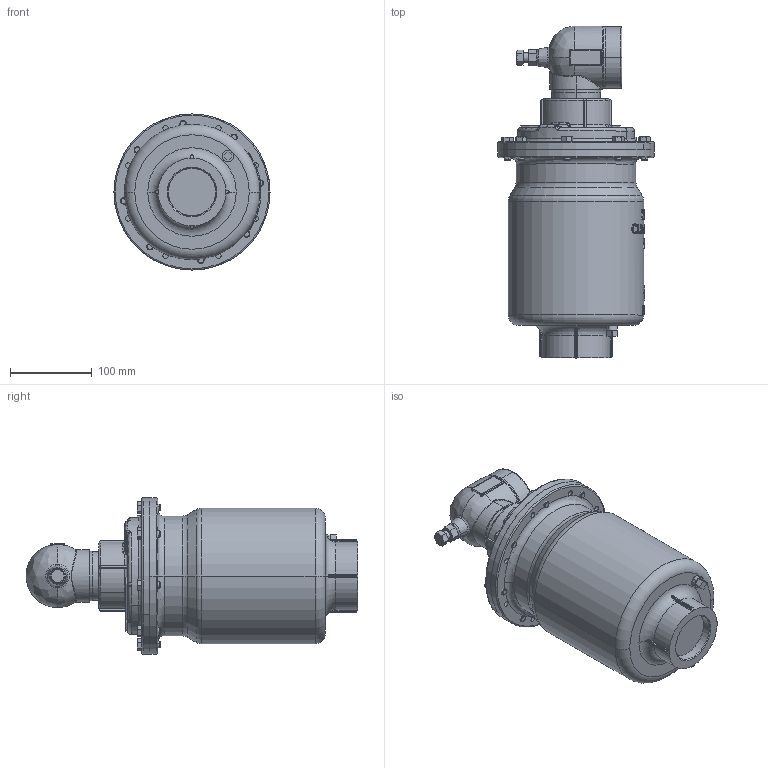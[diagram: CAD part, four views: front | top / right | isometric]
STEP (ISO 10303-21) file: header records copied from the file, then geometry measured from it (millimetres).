
FILE_DESCRIPTION (( 'STEP AP203' ), '1' );
FILE_NAME ('2in 33ATD Threaded Inlet.STEP', '2018-08-23T20:41:51', ( '' ), ( '' ), 'SwSTEP 2.0', 'SolidWorks 2017', '' );
FILE_SCHEMA (( 'CONFIG_CONTROL_DESIGN' ));
Length unit declared in the file: inch
Products named in the file (6): 210436 BODY SCREWED, 2in 33A_DI EPOXY COATED; 210437 2in COVER 33A_DI EPOXY COATED; Bolt .313-18 UNC  (67604)_0.88   67604-96H; .250 NPT SQ HD PIPE PLUG (67660)_STEEL CAD PL; 2in TDE; 2in 33ATD Threaded Inlet
Assembly tree (12 placements, depth 2):
  2in 33ATD Threaded Inlet
    210436 BODY SCREWED, 2in 33A_DI EPOXY COATED
    210437 2in COVER 33A_DI EPOXY COATED
    Bolt .313-18 UNC  (67604)_0.88   67604-96H  x8
    .250 NPT SQ HD PIPE PLUG (67660)_STEEL CAD PL
    2in TDE
Bounding box: 190.5 x 404.9 x 190.5 mm (x, y, z)
Volume: 5728889.1 mm3; surface area: 316836 mm2
Topology: 12 solids, 12 shells, 1018 faces, 2528 edges, 1584 vertices
Faces by surface type: plane 369, bspline 269, cylinder 174, cone 169, torus 35, sphere 2
Entity records: 49630 total; most frequent: CARTESIAN_POINT 29641, ORIENTED_EDGE 4432, DIRECTION 3279, EDGE_CURVE 2216, VERTEX_POINT 1409, AXIS2_PLACEMENT_3D 1276, EDGE_LOOP 971, FACE_OUTER_BOUND 878
